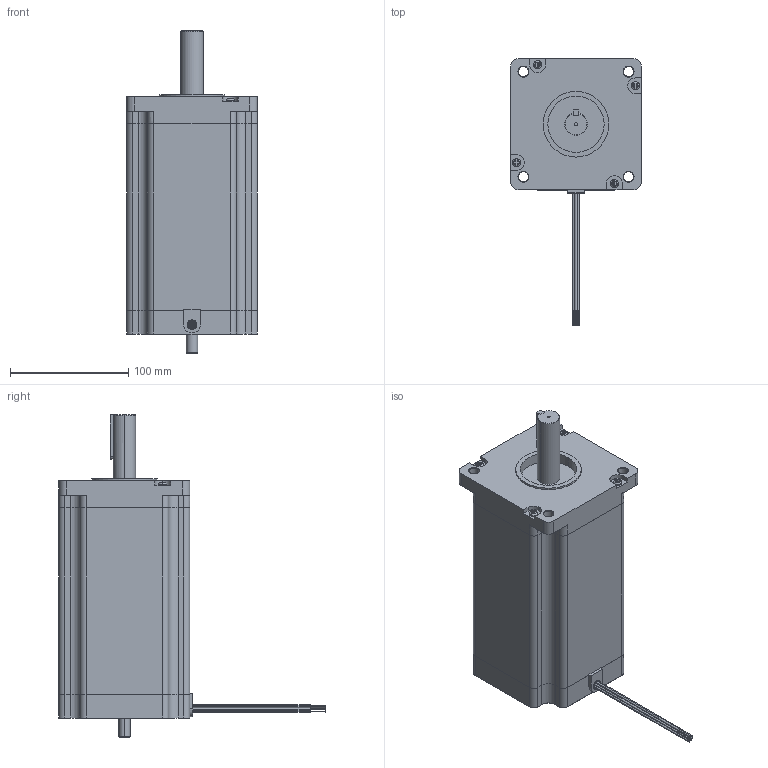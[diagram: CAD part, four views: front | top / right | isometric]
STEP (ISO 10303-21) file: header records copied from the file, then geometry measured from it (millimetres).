
FILE_DESCRIPTION (( 'STEP AP214' ), '1' );
FILE_NAME ('42Y302D-LW8.STEP', '2010-06-11T15:41:19', ( 'Tim Raines' ), ( 'Anaheim Automation' ), 'SwSTEP 2.0', 'SolidWorks 2010', '' );
FILE_SCHEMA (( 'AUTOMOTIVE_DESIGN' ));
Length unit declared in the file: inch
Products named in the file (1): 42Y302D-LW8
Bounding box: 110.62 x 224.92 x 272.36 mm (x, y, z)
Volume: 2219713.6 mm3; surface area: 121188.3 mm2
Topology: 1 solids, 1 shells, 372 faces, 933 edges, 587 vertices
Faces by surface type: plane 178, cylinder 125, cone 61, torus 8
Entity records: 16056 total; most frequent: CARTESIAN_POINT 2195, DIRECTION 1918, ORIENTED_EDGE 1842, EDGE_CURVE 921, AXIS2_PLACEMENT_3D 694, VERTEX_POINT 587, LINE 530, VECTOR 530
